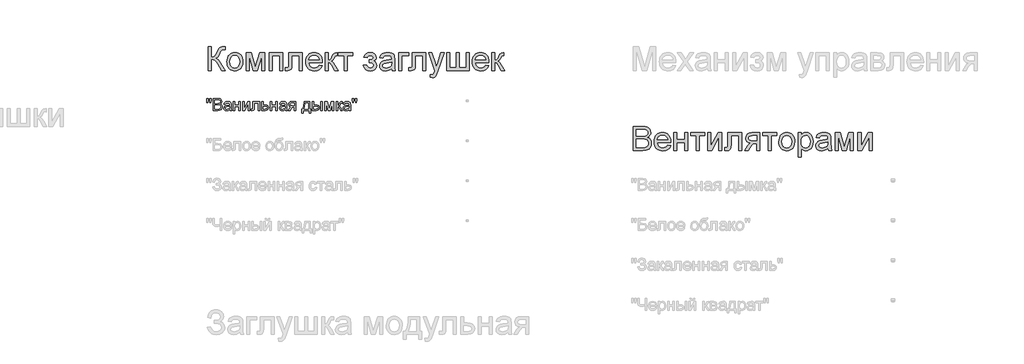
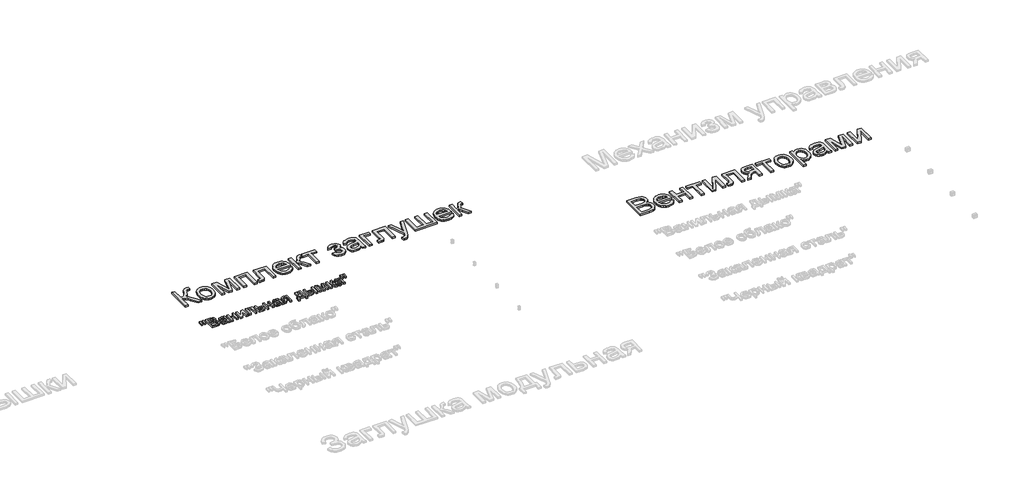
# One storey, part 105 of 168: 3 proxies.
"""IFC4 building model written with IfcOpenShell, lengths in millimetres."""

from ifc_helpers import new_model, si_unit, origin, origin_with_axes, place, context, project, spatial, polyline, outline, extrude, element, save

model = new_model("IFC4")

# Units and contexts
model_context = context("Model", 3, world=origin())
ifc_project = project(units=[si_unit("LENGTHUNIT", "METRE", prefix="MILLI")], contexts=[model_context])

# Site, building, storey
site = spatial("IfcSite", under=ifc_project)
building = spatial("IfcBuilding", under=site)
storey = spatial("IfcBuildingStorey", under=building, Name="Этаж 01", Elevation=0.0)

# Proxies
placement = place(None, origin())
element("IfcBuildingElementProxy", 1, Name="300 мм Arial 2", ObjectType="300 мм Arial 2", at=placement, inside=storey, context=model_context, shape_type="SweptSolid", body=[
    extrude(outline(polyline([(49099.0945017, -30665.4933673), (49136.765618, -30665.4933673), (49136.765618, -30797.3422744), (49162.2690373, -30794.8498738), (49178.8881064, -30787.3726723), (49192.3249963, -30769.7787159), (49208.2818778, -30736.9360507), (49229.0672106, -30694.8135623), (49239.0919949, -30683.4000234), (49252.6116582, -30673.9546532), (49268.6605103, -30667.6086888), (49286.2728608, -30665.4933673), (49310.9945309, -30665.9348257), (49310.9945309, -30703.605942), (49302.6803978, -30703.3852128), (49294.3662647, -30703.1644836), (49277.1125991, -30705.4269579), (49264.9357051, -30712.2143807), (49254.4510682, -30726.469808), (49242.5684798, -30750.989143), (49227.9911557, -30781.5233486), (49215.8970351, -30798.2251911), (49189.8877781, -30813.8233877), (49204.4788977, -30820.0313964), (49218.9688498, -30830.8563241), (49247.6452513, -30866.3569367), (49310.9945309, -30966.8622977), (49267.2901499, -30966.8622977), (49213.7265314, -30881.9551332), (49193.0423662, -30854.7226686), (49176.0186268, -30837.6253528), (49158.6086114, -30828.6030469), (49136.765618, -30825.5956116), (49136.765618, -30966.8622977), (49099.0945017, -30966.8622977), (49099.0945017, -30665.4933673)])), origin_with_axes(), (0.0, 0.0, 1.0), 20.0),
    extrude(outline(polyline([(49329.830089, -30856.2033936), (49331.8672356, -30827.5407876), (49337.9786752, -30802.8421102), (49348.164408, -30782.1073612), (49362.4244338, -30765.3365408), (49376.7810287, -30754.6173791), (49392.6275456, -30746.9608351), (49409.9639846, -30742.3669087), (49428.7903457, -30740.8355999), (49449.5733792, -30742.7003018), (49468.3652514, -30748.2944073), (49485.1659622, -30757.6179167), (49499.9755118, -30770.6708297), (49512.0627346, -30787.0116881), (49520.6964652, -30806.1990334), (49525.8767035, -30828.2328656), (49527.6034496, -30853.1131848), (49524.5500291, -30891.1705772), (49515.3897674, -30920.1412843), (49500.389379, -30941.837125), (49479.8155785, -30958.069918), (49455.3790169, -30968.19587), (49428.7903457, -30971.5711873), (49407.7038096, -30969.7133832), (49388.7371935, -30964.139971), (49371.8904974, -30954.8509506), (49357.1637213, -30941.8463221), (49345.2052572, -30925.3468146), (49336.6634971, -30905.5731573), (49331.538441, -30882.5253503), (49329.830089, -30856.2033936)]), holes=[polyline([(49367.5012053, -30856.1298172), (49371.860607, -30890.2232811), (49384.9388119, -30914.5126898), (49404.6204987, -30929.0532257), (49428.7903457, -30933.900071), (49452.8498282, -30929.0256345), (49472.4947268, -30914.4023252), (49485.5729317, -30889.7910197), (49489.9323333, -30854.9525948), (49485.5453405, -30821.8524123), (49472.3843622, -30797.8940973), (49452.7118725, -30783.3535615), (49428.7903457, -30778.5067162), (49404.6204987, -30783.3351674), (49384.9388119, -30797.820521), (49371.860607, -30822.0547474), (49367.5012053, -30856.1298172)])]), origin_with_axes(), (0.0, 0.0, 1.0), 20.0),
    extrude(outline(polyline([(49569.9834555, -30745.5444894), (49634.804263, -30745.5444894), (49684.762638, -30922.7164583), (49738.6205621, -30745.5444894), (49800.7190429, -30745.5444894), (49800.7190429, -30966.8622977), (49763.0479266, -30966.8622977), (49763.0479266, -30788.6602593), (49708.8956969, -30966.8622977), (49659.4523567, -30966.8622977), (49607.6545718, -30780.125397), (49607.6545718, -30966.8622977), (49569.9834555, -30966.8622977), (49569.9834555, -30745.5444894)])), origin_with_axes(), (0.0, 0.0, 1.0), 20.0),
    extrude(outline(polyline([(49857.2257173, -30745.5444894), (50026.7457407, -30745.5444894), (50026.7457407, -30966.8622977), (49989.0746244, -30966.8622977), (49989.0746244, -30783.2156057), (49894.8968336, -30783.2156057), (49894.8968336, -30966.8622977), (49857.2257173, -30966.8622977), (49857.2257173, -30745.5444894)])), origin_with_axes(), (0.0, 0.0, 1.0), 20.0),
    extrude(outline(polyline([(50102.0879733, -30745.5444894), (50271.6079967, -30745.5444894), (50271.6079967, -30966.6415685), (50233.9368804, -30966.6415685), (50233.9368804, -30783.2156057), (50139.7590896, -30783.2156057), (50139.7590896, -30888.7977384), (50137.2207038, -30937.5053145), (50132.4658291, -30948.5325773), (50123.2779762, -30958.069918), (50109.3352486, -30964.6642028), (50090.3157495, -30966.8622977), (50059.7079675, -30964.9493114), (50059.7079675, -30929.1911814), (50076.5569628, -30929.1911814), (50093.5898992, -30926.8735249), (50100.3957161, -30919.515885), (50102.0879733, -30886.6640228), (50102.0879733, -30745.5444894)])), origin_with_axes(), (0.0, 0.0, 1.0), 20.0),
    extrude(outline(polyline([(50483.0665675, -30900.9378442), (50520.0019198, -30905.6467337), (50506.6937887, -30933.4770067), (50485.4578005, -30954.2807335), (50456.7722019, -30967.2485738), (50421.1152395, -30971.5711873), (50397.7409373, -30969.7064854), (50376.9142178, -30964.1123798), (50358.6350812, -30954.7888705), (50342.9035274, -30941.7359575), (50330.2529852, -30925.3169242), (50321.2168837, -30905.8950541), (50315.7952228, -30883.4703472), (50313.9880025, -30858.0428036), (50315.8136169, -30831.7530365), (50321.2904601, -30808.5810693), (50330.4185321, -30788.526902), (50343.1978329, -30771.5905347), (50358.888, -30758.1352507), (50376.7486709, -30748.5243336), (50396.7798455, -30742.7577833), (50418.981524, -30740.8355999), (50440.4681317, -30742.7531848), (50459.8991989, -30748.5059395), (50477.2747254, -30758.093864), (50492.5947112, -30771.5169583), (50505.1003998, -30788.4165374), (50514.0330345, -30808.4339165), (50519.3926153, -30831.5690955), (50521.1791422, -30857.8220744), (50520.958413, -30867.9756174), (50351.6591188, -30867.9756174), (50358.1798272, -30896.1737724), (50373.3273684, -30916.9039228), (50395.1887559, -30929.6510339), (50421.8510035, -30933.900071), (50441.9005723, -30931.9319023), (50458.7863558, -30926.0273963), (50472.5083543, -30915.8186709), (50483.0665675, -30900.9378442)]), holes=[polyline([(50351.6591188, -30830.3045011), (50483.5080259, -30830.3045011), (50478.4128603, -30810.4020852), (50468.4248641, -30796.165052), (50446.462309, -30782.9213001), (50418.8343712, -30778.5067162), (50393.4413164, -30782.0291863), (50372.4444516, -30792.5965966), (50357.8487334, -30809.068513), (50351.6591188, -30830.3045011)])]), origin_with_axes(), (0.0, 0.0, 1.0), 20.0),
    extrude(outline(polyline([(50558.8502585, -30745.5444894), (50596.5213748, -30745.5444894), (50596.5213748, -30839.7222802), (50611.8436599, -30838.030023), (50621.7580797, -30832.9532515), (50630.5320653, -30819.7094997), (50642.4330478, -30793.5163016), (50659.613137, -30759.4872171), (50674.7698752, -30748.413969), (50702.3242366, -30745.5444894), (50709.5347237, -30745.5444894), (50709.5347237, -30783.4363349), (50699.3811807, -30783.2156057), (50680.9870809, -30787.1887313), (50668.0376347, -30811.9839778), (50652.8441083, -30838.8025752), (50631.5437408, -30851.9359624), (50643.4815115, -30857.2380617), (50655.3089177, -30866.5960599), (50678.6326361, -30897.4797534), (50718.9525028, -30966.8622977), (50676.1310386, -30966.8622977), (50636.6205123, -30898.9512814), (50616.7548846, -30870.2196976), (50607.4658642, -30865.0049703), (50596.5213748, -30863.2667279), (50596.5213748, -30966.8622977), (50558.8502585, -30966.8622977), (50558.8502585, -30745.5444894)])), origin_with_axes(), (0.0, 0.0, 1.0), 20.0),
    extrude(outline(polyline([(50723.6613924, -30745.5444894), (50902.5991948, -30745.5444894), (50902.5991948, -30783.2156057), (50831.9658517, -30783.2156057), (50831.9658517, -30966.8622977), (50794.2947354, -30966.8622977), (50794.2947354, -30783.2156057), (50723.6613924, -30783.2156057), (50723.6613924, -30745.5444894)])), origin_with_axes(), (0.0, 0.0, 1.0), 20.0),
    extrude(outline(polyline([(51105.081445, -30867.9756174), (51105.081445, -30830.3045011), (51134.8063102, -30828.8329731), (51149.8158956, -30820.9970866), (51155.1133963, -30813.6486438), (51156.8792299, -30804.6263379), (51154.5155881, -30793.9117748), (51147.4246626, -30785.6068387), (51136.5997349, -30780.2817468), (51123.0340863, -30778.5067162), (51109.321285, -30780.2725498), (51097.8341697, -30785.5700505), (51088.5727404, -30794.3992184), (51081.5369973, -30806.7600534), (51039.1569914, -30802.0511639), (51050.3957864, -30775.2693546), (51067.4839051, -30756.1394909), (51090.4213474, -30744.6615726), (51119.2081136, -30740.8355999), (51150.6988124, -30745.4985042), (51174.5375656, -30759.4872171), (51189.5471511, -30779.950653), (51194.5503462, -30804.0377267), (51192.770717, -30816.3985617), (51187.4318296, -30827.4350216), (51178.5336838, -30837.1471062), (51166.0762798, -30845.5348157), (51180.6168156, -30856.0010585), (51190.9818908, -30869.005687), (51197.1898995, -30884.5854895), (51199.2592357, -30902.7772542), (51194.0077202, -30930.5063596), (51178.2531738, -30952.4781117), (51153.0624542, -30966.7979184), (51119.5024192, -30971.5711873), (51086.6781481, -30967.1566033), (51061.5610049, -30953.9128515), (51044.1509895, -30931.8399318), (51034.4481019, -30900.9378442), (51076.8281077, -30896.2289547), (51083.1740721, -30912.1582451), (51093.8242559, -30924.0408335), (51107.5462543, -30931.4352616), (51123.1076627, -30933.900071), (51138.2644009, -30931.5364291), (51150.625236, -30924.4455037), (51158.8473986, -30913.6757583), (51161.5881194, -30900.2756566), (51159.8866652, -30889.662261), (51154.7823025, -30880.4836053), (51140.2877519, -30869.8886038), (51112.4390849, -30867.7548882), (51105.081445, -30867.9756174)])), origin_with_axes(), (0.0, 0.0, 1.0), 20.0),
    extrude(outline(polyline([(51387.6148173, -30938.6089605), (51369.6161906, -30954.0416102), (51351.0841351, -30964.139971), (51331.5955864, -30969.7133832), (51310.7274803, -30971.5711873), (51279.2459785, -30967.101421), (51256.0234276, -30953.6921223), (51241.7036209, -30933.3298539), (51236.930352, -30908.0011785), (51238.7329738, -30892.3845878), (51244.1408391, -30878.2027369), (51252.4825634, -30866.0626311), (51263.0867619, -30856.5712756), (51289.4639009, -30844.2104405), (51322.0582457, -30838.5450578), (51360.5754906, -30832.5853695), (51387.3940881, -30825.5956116), (51387.6148173, -30817.2079021), (51385.0212492, -30800.3956949), (51377.240545, -30789.3960233), (51359.8397266, -30781.229043), (51335.5963031, -30778.5067162), (51313.1555014, -30780.318535), (51297.4837284, -30785.7539915), (51286.7967565, -30795.806367), (51279.3103579, -30811.468943), (51241.6392416, -30806.7600534), (51248.178344, -30786.1586617), (51257.936414, -30769.9718539), (51271.8239593, -30757.5926248), (51290.7514879, -30748.413969), (51313.9004625, -30742.7301922), (51340.4523455, -30740.8355999), (51365.9189766, -30742.509463), (51386.1065011, -30747.5310522), (51401.3276186, -30755.0818302), (51411.8950289, -30764.3432594), (51418.9031809, -30775.7935865), (51423.4465236, -30789.9110581), (51425.2859336, -30822.8732848), (51425.2859336, -30869.741451), (51427.1989199, -30935.1876579), (51434.7037126, -30966.8622977), (51397.0325963, -30966.8622977), (51387.6148173, -30938.6089605)]), holes=[polyline([(51387.6148173, -30863.2667279), (51326.8407117, -30874.8182225), (51294.4303079, -30880.9250637), (51279.7518163, -30890.8578775), (51274.6014683, -30905.3524281), (51277.4065685, -30916.5544349), (51285.8218692, -30925.7330907), (51299.6634293, -30931.8583259), (51318.7473078, -30933.900071), (51338.9808175, -30931.6467937), (51356.8598825, -30924.8869621), (51371.3544331, -30914.9265571), (51381.4343997, -30903.0715598), (51385.904166, -30890.8578775), (51387.3940881, -30873.9353058), (51387.6148173, -30863.2667279)])]), origin_with_axes(), (0.0, 0.0, 1.0), 20.0),
    extrude(outline(polyline([(51477.0837185, -30745.5444894), (51599.5148465, -30745.5444894), (51599.5148465, -30783.2156057), (51514.7548348, -30783.2156057), (51514.7548348, -30966.8622977), (51477.0837185, -30966.8622977), (51477.0837185, -30745.5444894)])), origin_with_axes(), (0.0, 0.0, 1.0), 20.0),
    extrude(outline(polyline([(51646.6037419, -30745.5444894), (51816.1237652, -30745.5444894), (51816.1237652, -30966.6415685), (51778.4526489, -30966.6415685), (51778.4526489, -30783.2156057), (51684.2748582, -30783.2156057), (51684.2748582, -30888.7977384), (51681.7364724, -30937.5053145), (51676.9815976, -30948.5325773), (51667.7937448, -30958.069918), (51653.8510172, -30964.6642028), (51634.831518, -30966.8622977), (51604.223736, -30964.9493114), (51604.223736, -30929.1911814), (51621.0727314, -30929.1911814), (51638.1056678, -30926.8735249), (51644.9114847, -30919.515885), (51646.6037419, -30886.6640228), (51646.6037419, -30745.5444894)])), origin_with_axes(), (0.0, 0.0, 1.0), 20.0),
    extrude(outline(polyline([(51872.6304397, -31051.6223094), (51867.9215502, -31015.3491447), (51887.0514139, -31018.6600827), (51904.9304789, -31014.5030161), (51915.8933623, -31002.9147333), (51926.1940582, -30975.1764308), (51929.1371142, -30966.0529573), (51849.085992, -30745.5444894), (51888.8172475, -30745.5444894), (51931.2708297, -30868.4170758), (51946.0596859, -30917.5661104), (51960.8485421, -30874.1560349), (52004.4793468, -30745.5444894), (52043.9162966, -30745.5444894), (51966.8818069, -30972.1597985), (51946.8690263, -31021.308833), (51936.6235128, -31036.9990001), (51925.0168358, -31047.8699131), (51911.5339607, -31054.2158775), (51895.6598526, -31056.331199), (51872.6304397, -31051.6223094)])), origin_with_axes(), (0.0, 0.0, 1.0), 20.0),
    extrude(outline(polyline([(52075.1126898, -30745.5444894), (52112.7838061, -30745.5444894), (52112.7838061, -30929.1911814), (52197.5438178, -30929.1911814), (52197.5438178, -30745.5444894), (52235.2149341, -30745.5444894), (52235.2149341, -30929.1911814), (52319.9749458, -30929.1911814), (52319.9749458, -30745.5444894), (52357.6460621, -30745.5444894), (52357.6460621, -30966.8622977), (52075.1126898, -30966.8622977), (52075.1126898, -30745.5444894)])), origin_with_axes(), (0.0, 0.0, 1.0), 20.0),
    extrude(outline(polyline([(52564.3957434, -30900.9378442), (52601.3310957, -30905.6467337), (52588.0229646, -30933.4770067), (52566.7869764, -30954.2807335), (52538.1013778, -30967.2485738), (52502.4444154, -30971.5711873), (52479.0701132, -30969.7064854), (52458.2433937, -30964.1123798), (52439.9642571, -30954.7888705), (52424.2327033, -30941.7359575), (52411.5821612, -30925.3169242), (52402.5460596, -30905.8950541), (52397.1243987, -30883.4703472), (52395.3171784, -30858.0428036), (52397.1427928, -30831.7530365), (52402.619636, -30808.5810693), (52411.7477081, -30788.526902), (52424.5270089, -30771.5905347), (52440.217176, -30758.1352507), (52458.0778468, -30748.5243336), (52478.1090215, -30742.7577833), (52500.3106999, -30740.8355999), (52521.7973076, -30742.7531848), (52541.2283748, -30748.5059395), (52558.6039013, -30758.093864), (52573.9238871, -30771.5169583), (52586.4295757, -30788.4165374), (52595.3622104, -30808.4339165), (52600.7217912, -30831.5690955), (52602.5083181, -30857.8220744), (52602.2875889, -30867.9756174), (52432.9882947, -30867.9756174), (52439.5090031, -30896.1737724), (52454.6565443, -30916.9039228), (52476.5179318, -30929.6510339), (52503.1801794, -30933.900071), (52523.2297482, -30931.9319023), (52540.1155317, -30926.0273963), (52553.8375302, -30915.8186709), (52564.3957434, -30900.9378442)]), holes=[polyline([(52432.9882947, -30830.3045011), (52564.8372018, -30830.3045011), (52559.7420362, -30810.4020852), (52549.75404, -30796.165052), (52527.7914849, -30782.9213001), (52500.1635471, -30778.5067162), (52474.7704924, -30782.0291863), (52453.7736275, -30792.5965966), (52439.1779093, -30809.068513), (52432.9882947, -30830.3045011)])]), origin_with_axes(), (0.0, 0.0, 1.0), 20.0),
    extrude(outline(polyline([(52640.1794344, -30745.5444894), (52677.8505507, -30745.5444894), (52677.8505507, -30839.7222802), (52693.1728358, -30838.030023), (52703.0872556, -30832.9532515), (52711.8612412, -30819.7094997), (52723.7622237, -30793.5163016), (52740.9423129, -30759.4872171), (52756.0990511, -30748.413969), (52783.6534126, -30745.5444894), (52790.8638997, -30745.5444894), (52790.8638997, -30783.4363349), (52780.7103566, -30783.2156057), (52762.3162568, -30787.1887313), (52749.3668106, -30811.9839778), (52734.1732842, -30838.8025752), (52712.8729167, -30851.9359624), (52724.8106874, -30857.2380617), (52736.6380936, -30866.5960599), (52759.9618121, -30897.4797534), (52800.2816787, -30966.8622977), (52757.4602145, -30966.8622977), (52717.9496882, -30898.9512814), (52698.0840605, -30870.2196976), (52688.7950401, -30865.0049703), (52677.8505507, -30863.2667279), (52677.8505507, -30966.8622977), (52640.1794344, -30966.8622977), (52640.1794344, -30745.5444894)])), origin_with_axes(), (0.0, 0.0, 1.0), 20.0),
])
element("IfcBuildingElementProxy", 2, Name="300 мм Arial 2", ObjectType="300 мм Arial 2", at=placement, inside=storey, context=model_context, shape_type="SweptSolid", body=[
    extrude(outline(polyline([(54408.7231967, -31966.8622977), (54408.7231967, -31665.4933673), (54523.7231084, -31665.4933673), (54555.3517629, -31667.7098563), (54580.0458418, -31674.3593234), (54598.9733705, -31685.6073154), (54613.3023742, -31701.6193792), (54622.3246801, -31720.4549374), (54625.3321154, -31740.1734123), (54622.8029267, -31758.3191917), (54615.2153606, -31775.3797192), (54602.5142347, -31790.3065312), (54584.6443668, -31802.0511639), (54605.9907195, -31813.1979883), (54621.7636601, -31830.1573483), (54631.5033359, -31851.8072037), (54634.7498945, -31877.0255145), (54632.5334055, -31898.0407735), (54625.8839384, -31917.5293222), (54615.9603216, -31934.1024061), (54603.9213833, -31946.3712706), (54589.1785124, -31955.2556208), (54571.1430976, -31961.6751616), (54522.8401916, -31966.8622977), (54408.7231967, -31966.8622977)]), holes=[polyline([(54446.394313, -31787.9244953), (54515.1882461, -31787.9244953), (54555.36096, -31784.6871337), (54569.4232492, -31779.1045244), (54579.530807, -31770.7444061), (54585.6284511, -31759.7355374), (54587.6609991, -31746.206677), (54585.7664069, -31733.0732898), (54580.08263, -31721.6321597), (54570.8671861, -31712.7018243), (54558.3775923, -31707.1008209), (54509.9643218, -31703.1644836), (54446.394313, -31703.1644836), (54446.394313, -31787.9244953)]), polyline([(54446.394313, -31929.1911814), (54523.649532, -31929.1911814), (54551.6085636, -31927.7196534), (54575.2633759, -31919.515885), (54590.9351489, -31902.7772542), (54595.5428709, -31890.949848), (54597.0787782, -31877.3933965), (54595.2761564, -31861.6480471), (54589.8682911, -31848.1099897), (54580.4229209, -31837.5241853), (54566.5077844, -31830.6355949), (54546.7985065, -31826.8556074), (54519.970712, -31825.5956116), (54446.394313, -31825.5956116), (54446.394313, -31929.1911814)])]), origin_with_axes(), (0.0, 0.0, 1.0), 20.0),
    extrude(outline(polyline([(54836.7906863, -31900.9378442), (54873.7260386, -31905.6467337), (54860.4179074, -31933.4770067), (54839.1819192, -31954.2807335), (54810.4963207, -31967.2485738), (54774.8393583, -31971.5711873), (54751.465056, -31969.7064854), (54730.6383366, -31964.1123798), (54712.3591999, -31954.7888705), (54696.6276461, -31941.7359575), (54683.977104, -31925.3169242), (54674.9410025, -31905.8950541), (54669.5193416, -31883.4703472), (54667.7121213, -31858.0428036), (54669.5377357, -31831.7530365), (54675.0145789, -31808.5810693), (54684.1426509, -31788.526902), (54696.9219517, -31771.5905347), (54712.6121188, -31758.1352507), (54730.4727897, -31748.5243336), (54750.5039643, -31742.7577833), (54772.7056427, -31740.8355999), (54794.1922505, -31742.7531848), (54813.6233176, -31748.5059395), (54830.9988441, -31758.093864), (54846.3188299, -31771.5169583), (54858.8245185, -31788.4165374), (54867.7571532, -31808.4339165), (54873.116734, -31831.5690955), (54874.903261, -31857.8220744), (54874.6825318, -31867.9756174), (54705.3832376, -31867.9756174), (54711.903946, -31896.1737724), (54727.0514871, -31916.9039228), (54748.9128747, -31929.6510339), (54775.5751223, -31933.900071), (54795.624691, -31931.9319023), (54812.5104746, -31926.0273963), (54826.232473, -31915.8186709), (54836.7906863, -31900.9378442)]), holes=[polyline([(54705.3832376, -31830.3045011), (54837.2321447, -31830.3045011), (54832.136979, -31810.4020852), (54822.1489829, -31796.165052), (54800.1864277, -31782.9213001), (54772.5584899, -31778.5067162), (54747.1654352, -31782.0291863), (54726.1685703, -31792.5965966), (54711.5728522, -31809.068513), (54705.3832376, -31830.3045011)])]), origin_with_axes(), (0.0, 0.0, 1.0), 20.0),
    extrude(outline(polyline([(54912.5743773, -31745.5444894), (54950.2454936, -31745.5444894), (54950.2454936, -31830.3045011), (55049.1321739, -31830.3045011), (55049.1321739, -31745.5444894), (55086.8032902, -31745.5444894), (55086.8032902, -31966.8622977), (55049.1321739, -31966.8622977), (55049.1321739, -31867.9756174), (54950.2454936, -31867.9756174), (54950.2454936, -31966.8622977), (54912.5743773, -31966.8622977), (54912.5743773, -31745.5444894)])), origin_with_axes(), (0.0, 0.0, 1.0), 20.0),
    extrude(outline(polyline([(55124.4744065, -31745.5444894), (55303.412209, -31745.5444894), (55303.412209, -31783.2156057), (55232.7788659, -31783.2156057), (55232.7788659, -31966.8622977), (55195.1077496, -31966.8622977), (55195.1077496, -31783.2156057), (55124.4744065, -31783.2156057), (55124.4744065, -31745.5444894)])), origin_with_axes(), (0.0, 0.0, 1.0), 20.0),
    extrude(outline(polyline([(55336.3744357, -31745.5444894), (55374.045552, -31745.5444894), (55374.045552, -31914.3287488), (55466.604662, -31745.5444894), (55515.3122382, -31745.5444894), (55515.3122382, -31966.8622977), (55477.6411219, -31966.8622977), (55477.6411219, -31799.1081079), (55385.6706231, -31966.8622977), (55336.3744357, -31966.8622977), (55336.3744357, -31745.5444894)])), origin_with_axes(), (0.0, 0.0, 1.0), 20.0),
    extrude(outline(polyline([(55590.6544708, -31745.5444894), (55760.1744942, -31745.5444894), (55760.1744942, -31966.6415685), (55722.5033779, -31966.6415685), (55722.5033779, -31783.2156057), (55628.3255871, -31783.2156057), (55628.3255871, -31888.7977384), (55625.7872013, -31937.5053145), (55621.0323265, -31948.5325773), (55611.8444737, -31958.069918), (55597.9017461, -31964.6642028), (55578.8822469, -31966.8622977), (55548.2744649, -31964.9493114), (55548.2744649, -31929.1911814), (55565.1234603, -31929.1911814), (55582.1563967, -31926.8735249), (55588.9622136, -31919.515885), (55590.6544708, -31886.6640228), (55590.6544708, -31745.5444894)])), origin_with_axes(), (0.0, 0.0, 1.0), 20.0),
    extrude(outline(polyline([(55986.201192, -31745.5444894), (55986.201192, -31966.8622977), (55948.5300757, -31966.8622977), (55948.5300757, -31882.102286), (55928.0022604, -31882.102286), (55900.0432287, -31886.884752), (55888.8780102, -31897.3142065), (55873.7764543, -31919.0376384), (55843.7572835, -31966.8622977), (55800.2000552, -31966.8622977), (55838.0183243, -31906.3824977), (55854.7201669, -31884.67746), (55870.0976343, -31875.0389517), (55844.3458947, -31867.1478829), (55826.2461005, -31852.1566916), (55815.5407344, -31832.2174875), (55811.9722791, -31809.4823802), (55816.8467155, -31783.6938523), (55831.4700248, -31763.2764016), (55855.3271722, -31749.9774675), (55887.9031229, -31745.5444894), (55986.201192, -31745.5444894)]), holes=[polyline([(55948.5300757, -31783.2156057), (55898.8660063, -31783.2156057), (55873.2154342, -31785.3953066), (55858.6565043, -31791.934409), (55851.8966726, -31801.3981734), (55849.6433954, -31812.3518598), (55852.9635304, -31826.7084546), (55862.9239354, -31836.6688596), (55881.3272322, -31842.4905922), (55909.9760426, -31844.4311697), (55948.5300757, -31844.4311697), (55948.5300757, -31783.2156057)])]), origin_with_axes(), (0.0, 0.0, 1.0), 20.0),
    extrude(outline(polyline([(56023.8723083, -31745.5444894), (56202.8101108, -31745.5444894), (56202.8101108, -31783.2156057), (56132.1767677, -31783.2156057), (56132.1767677, -31966.8622977), (56094.5056514, -31966.8622977), (56094.5056514, -31783.2156057), (56023.8723083, -31783.2156057), (56023.8723083, -31745.5444894)])), origin_with_axes(), (0.0, 0.0, 1.0), 20.0),
    extrude(outline(polyline([(56226.3545584, -31856.2033936), (56228.391705, -31827.5407876), (56234.5031446, -31802.8421102), (56244.6888774, -31782.1073612), (56258.9489032, -31765.3365408), (56273.3054981, -31754.6173791), (56289.152015, -31746.9608351), (56306.488454, -31742.3669087), (56325.3148152, -31740.8355999), (56346.0978486, -31742.7003018), (56364.8897208, -31748.2944073), (56381.6904317, -31757.6179167), (56396.4999812, -31770.6708297), (56408.587204, -31787.0116881), (56417.2209346, -31806.1990334), (56422.4011729, -31828.2328656), (56424.1279191, -31853.1131848), (56421.0744985, -31891.1705772), (56411.9142368, -31920.1412843), (56396.9138485, -31941.837125), (56376.3400479, -31958.069918), (56351.9034864, -31968.19587), (56325.3148152, -31971.5711873), (56304.228279, -31969.7133832), (56285.2616629, -31964.139971), (56268.4149668, -31954.8509506), (56253.6881907, -31941.8463221), (56241.7297266, -31925.3468146), (56233.1879665, -31905.5731573), (56228.0629105, -31882.5253503), (56226.3545584, -31856.2033936)]), holes=[polyline([(56264.0256748, -31856.1298172), (56268.3850764, -31890.2232811), (56281.4632813, -31914.5126898), (56301.1449681, -31929.0532257), (56325.3148152, -31933.900071), (56349.3742976, -31929.0256345), (56369.0191962, -31914.4023252), (56382.0974011, -31889.7910197), (56386.4568028, -31854.9525948), (56382.06981, -31821.8524123), (56368.9088316, -31797.8940973), (56349.2363419, -31783.3535615), (56325.3148152, -31778.5067162), (56301.1449681, -31783.3351674), (56281.4632813, -31797.820521), (56268.3850764, -31822.0547474), (56264.0256748, -31856.1298172)])]), origin_with_axes(), (0.0, 0.0, 1.0), 20.0),
    extrude(outline(polyline([(56466.5079249, -32051.6223094), (56466.5079249, -31745.5444894), (56504.1790412, -31745.5444894), (56504.1790412, -31782.4798418), (56516.4662998, -31764.2604859), (56530.2250865, -31751.2466604), (56546.2647415, -31743.438365), (56565.3946052, -31740.8355999), (56590.8704334, -31744.4776316), (56613.1456882, -31755.4037269), (56631.2822705, -31772.9516981), (56644.3420814, -31796.4593576), (56652.2331502, -31824.2160541), (56654.8635064, -31854.5111364), (56651.8928593, -31886.7284021), (56642.980918, -31915.5427594), (56628.412791, -31939.4918773), (56608.4735868, -31957.1134249), (56585.2510359, -31967.9567467), (56560.8328685, -31971.5711873), (56543.5148235, -31969.1523632), (56528.0545827, -31961.8958908), (56514.8200279, -31950.9422044), (56504.1790412, -31937.4317381), (56504.1790412, -32051.6223094), (56466.5079249, -32051.6223094)]), holes=[polyline([(56504.1790412, -31857.9692272), (56508.2533343, -31891.7407943), (56520.4762136, -31915.3588184), (56538.5116284, -31929.2647578), (56560.0235281, -31933.900071), (56581.8849156, -31929.0992109), (56600.3801829, -31914.6966308), (56612.9893383, -31890.214084), (56617.1923901, -31855.173324), (56613.0905059, -31821.5856978), (56600.7848531, -31797.63658), (56582.7770295, -31783.2891821), (56561.5686325, -31778.5067162), (56540.277462, -31783.5926848), (56521.5798596, -31798.8505905), (56508.5292458, -31823.8021869), (56504.1790412, -31857.9692272)])]), origin_with_axes(), (0.0, 0.0, 1.0), 20.0),
    extrude(outline(polyline([(56838.5101984, -31938.6089605), (56820.5115718, -31954.0416102), (56801.9795163, -31964.139971), (56782.4909676, -31969.7133832), (56761.6228614, -31971.5711873), (56730.1413597, -31967.101421), (56706.9188087, -31953.6921223), (56692.5990021, -31933.3298539), (56687.8257332, -31908.0011785), (56689.628355, -31892.3845878), (56695.0362203, -31878.2027369), (56703.3779445, -31866.0626311), (56713.9821431, -31856.5712756), (56740.3592821, -31844.2104405), (56772.9536269, -31838.5450578), (56811.4708718, -31832.5853695), (56838.2894692, -31825.5956116), (56838.5101984, -31817.2079021), (56835.9166304, -31800.3956949), (56828.1359262, -31789.3960233), (56810.7351078, -31781.229043), (56786.4916843, -31778.5067162), (56764.0508826, -31780.318535), (56748.3791096, -31785.7539915), (56737.6921376, -31795.806367), (56730.205739, -31811.468943), (56692.5346227, -31806.7600534), (56699.0737252, -31786.1586617), (56708.8317951, -31769.9718539), (56722.7193404, -31757.5926248), (56741.6468691, -31748.413969), (56764.7958436, -31742.7301922), (56791.3477266, -31740.8355999), (56816.8143578, -31742.509463), (56837.0018822, -31747.5310522), (56852.2229998, -31755.0818302), (56862.7904101, -31764.3432594), (56869.7985621, -31775.7935865), (56874.3419048, -31789.9110581), (56876.1813147, -31822.8732848), (56876.1813147, -31869.741451), (56878.0943011, -31935.1876579), (56885.5990938, -31966.8622977), (56847.9279775, -31966.8622977), (56838.5101984, -31938.6089605)]), holes=[polyline([(56838.5101984, -31863.2667279), (56777.7360928, -31874.8182225), (56745.325689, -31880.9250637), (56730.6471974, -31890.8578775), (56725.4968495, -31905.3524281), (56728.3019497, -31916.5544349), (56736.7172504, -31925.7330907), (56750.5588104, -31931.8583259), (56769.6426889, -31933.900071), (56789.8761987, -31931.6467937), (56807.7552636, -31924.8869621), (56822.2498142, -31914.9265571), (56832.3297809, -31903.0715598), (56836.7995471, -31890.8578775), (56838.2894692, -31873.9353058), (56838.5101984, -31863.2667279)])]), origin_with_axes(), (0.0, 0.0, 1.0), 20.0),
    extrude(outline(polyline([(56927.9790997, -31745.5444894), (56992.7999072, -31745.5444894), (57042.7582821, -31922.7164583), (57096.6162062, -31745.5444894), (57158.714687, -31745.5444894), (57158.714687, -31966.8622977), (57121.0435707, -31966.8622977), (57121.0435707, -31788.6602593), (57066.891341, -31966.8622977), (57017.4480009, -31966.8622977), (56965.650216, -31780.125397), (56965.650216, -31966.8622977), (56927.9790997, -31966.8622977), (56927.9790997, -31745.5444894)])), origin_with_axes(), (0.0, 0.0, 1.0), 20.0),
    extrude(outline(polyline([(57215.2213615, -31745.5444894), (57252.8924778, -31745.5444894), (57252.8924778, -31914.3287488), (57345.4515878, -31745.5444894), (57394.1591639, -31745.5444894), (57394.1591639, -31966.8622977), (57356.4880476, -31966.8622977), (57356.4880476, -31799.1081079), (57264.5175488, -31966.8622977), (57215.2213615, -31966.8622977), (57215.2213615, -31745.5444894)])), origin_with_axes(), (0.0, 0.0, 1.0), 20.0),
])
element("IfcBuildingElementProxy", 3, Name="150", ObjectType="150", at=placement, inside=storey, context=model_context, shape_type="SweptSolid", body=[
    extrude(outline(polyline([(49080.1485789, -31370.3300622), (49075.550054, -31341.2305964), (49075.550054, -31316.1778325), (49094.3856121, -31316.1778325), (49094.3856121, -31341.2305964), (49090.2653338, -31370.3300622), (49080.1485789, -31370.3300622)])), origin_with_axes(), (0.0, 0.0, 1.0), 20.0),
    extrude(outline(polyline([(49117.7093306, -31370.3300622), (49113.2211703, -31341.2305964), (49113.2211703, -31316.1778325), (49132.0567284, -31316.1778325), (49132.0567284, -31341.2305964), (49127.6421445, -31370.3300622), (49117.7093306, -31370.3300622)])), origin_with_axes(), (0.0, 0.0, 1.0), 20.0),
    extrude(outline(polyline([(49157.9556209, -31466.8622977), (49157.9556209, -31316.1778325), (49215.4555767, -31316.1778325), (49243.6169435, -31320.6108106), (49253.0807078, -31326.2348066), (49260.2452096, -31334.2408385), (49266.2600803, -31353.517855), (49261.2017028, -31371.1210085), (49245.9162059, -31384.4567308), (49256.5893823, -31390.030143), (49264.4758526, -31398.509823), (49269.3456905, -31409.3347507), (49270.9689698, -31421.9439061), (49266.5359918, -31442.19581), (49255.5547142, -31456.6167842), (49239.1655713, -31464.2687297), (49215.0141183, -31466.8622977), (49157.9556209, -31466.8622977)]), holes=[polyline([(49176.791179, -31377.3933965), (49211.1881456, -31377.3933965), (49231.2745025, -31375.7747157), (49243.3594261, -31368.8033519), (49247.4245221, -31356.5344874), (49243.6353376, -31344.2472287), (49232.7828187, -31336.9815593), (49208.5761834, -31335.0133907), (49176.791179, -31335.0133907), (49176.791179, -31377.3933965)]), polyline([(49176.791179, -31448.0267396), (49215.4187885, -31448.0267396), (49229.3983043, -31447.2909756), (49241.2257105, -31443.1890913), (49249.061597, -31434.819776), (49252.1334117, -31422.1278471), (49248.5281681, -31407.4861437), (49236.8479148, -31398.7489463), (49213.5793786, -31396.2289547), (49176.791179, -31396.2289547), (49176.791179, -31448.0267396)])]), origin_with_axes(), (0.0, 0.0, 1.0), 20.0),
    extrude(outline(polyline([(49365.1467606, -31452.7356291), (49346.8814195, -31465.5011344), (49326.7030921, -31469.2167425), (49310.9623412, -31466.9818594), (49299.3510657, -31460.27721), (49292.1911624, -31450.0960758), (49289.804528, -31437.4317381), (49293.4097715, -31422.5325173), (49302.8827329, -31411.7167867), (49316.0713024, -31405.5363691), (49332.3684748, -31402.7036778), (49365.036396, -31396.2289547), (49365.1467606, -31392.0350999), (49363.8499765, -31383.6289963), (49359.9596244, -31378.1291605), (49351.2592153, -31374.0456704), (49339.1375035, -31372.684507), (49320.0812162, -31376.3081446), (49310.9945309, -31389.1656204), (49292.1589727, -31386.8111756), (49300.3075589, -31368.4170758), (49316.7150959, -31357.6381334), (49341.5655247, -31353.8489488), (49364.3926025, -31357.196675), (49377.2868664, -31365.6027786), (49383.0626137, -31378.3866779), (49383.9823187, -31394.8677913), (49383.9823187, -31418.3018744), (49384.9388119, -31451.0249778), (49388.6912083, -31466.8622977), (49369.8556501, -31466.8622977), (49365.1467606, -31452.7356291)]), holes=[polyline([(49365.1467606, -31415.0645128), (49334.7597078, -31420.8402601), (49318.5545059, -31423.8936807), (49311.2152601, -31428.8600876), (49308.6400861, -31436.1073629), (49314.2502865, -31446.2976942), (49330.7130058, -31450.3811843), (49349.7692932, -31445.8746299), (49362.0565518, -31434.9669288), (49365.036396, -31420.3988017), (49365.1467606, -31415.0645128)])]), origin_with_axes(), (0.0, 0.0, 1.0), 20.0),
    extrude(outline(polyline([(49409.8812112, -31356.2033936), (49428.7167693, -31356.2033936), (49428.7167693, -31398.5833994), (49478.1601095, -31398.5833994), (49478.1601095, -31356.2033936), (49496.9956676, -31356.2033936), (49496.9956676, -31466.8622977), (49478.1601095, -31466.8622977), (49478.1601095, -31417.4189576), (49428.7167693, -31417.4189576), (49428.7167693, -31466.8622977), (49409.8812112, -31466.8622977), (49409.8812112, -31356.2033936)])), origin_with_axes(), (0.0, 0.0, 1.0), 20.0),
    extrude(outline(polyline([(49525.2490049, -31356.2033936), (49544.084563, -31356.2033936), (49544.084563, -31440.5955233), (49590.364118, -31356.2033936), (49614.7179061, -31356.2033936), (49614.7179061, -31466.8622977), (49595.8823479, -31466.8622977), (49595.8823479, -31382.9852028), (49549.8970985, -31466.8622977), (49525.2490049, -31466.8622977), (49525.2490049, -31356.2033936)])), origin_with_axes(), (0.0, 0.0, 1.0), 20.0),
    extrude(outline(polyline([(49652.3890224, -31356.2033936), (49737.1490341, -31356.2033936), (49737.1490341, -31466.7519331), (49718.3134759, -31466.7519331), (49718.3134759, -31375.0389517), (49671.2245806, -31375.0389517), (49671.2245806, -31427.830018), (49669.9553877, -31452.1838061), (49662.9840239, -31462.4661079), (49646.5029105, -31466.8622977), (49631.1990195, -31465.9058045), (49631.1990195, -31448.0267396), (49639.6235172, -31448.0267396), (49648.1399854, -31446.8679113), (49651.5428938, -31443.1890913), (49652.3890224, -31426.7631603), (49652.3890224, -31356.2033936)])), origin_with_axes(), (0.0, 0.0, 1.0), 20.0),
    extrude(outline(polyline([(49765.4023713, -31356.2033936), (49784.2379295, -31356.2033936), (49784.2379295, -31396.2289547), (49805.9429672, -31396.2289547), (49824.7601312, -31398.587998), (49838.6844648, -31405.6651278), (49847.2929034, -31416.8901272), (49850.162383, -31431.692779), (49847.7205663, -31445.1710556), (49840.395116, -31456.5432078), (49827.6985887, -31464.2825252), (49809.1435405, -31466.8622977), (49765.4023713, -31466.8622977), (49765.4023713, -31356.2033936)]), holes=[polyline([(49784.2379295, -31448.0267396), (49801.8226888, -31448.0267396), (49824.539402, -31444.0720081), (49829.6299692, -31439.0090322), (49831.3268249, -31431.7295672), (49826.3052356, -31420.1412843), (49818.2348244, -31416.3337057), (49804.066769, -31415.0645128), (49784.2379295, -31415.0645128), (49784.2379295, -31448.0267396)])]), origin_with_axes(), (0.0, 0.0, 1.0), 20.0),
    extrude(outline(polyline([(49873.7068307, -31356.2033936), (49892.5423889, -31356.2033936), (49892.5423889, -31398.5833994), (49941.985729, -31398.5833994), (49941.985729, -31356.2033936), (49960.8212872, -31356.2033936), (49960.8212872, -31466.8622977), (49941.985729, -31466.8622977), (49941.985729, -31417.4189576), (49892.5423889, -31417.4189576), (49892.5423889, -31466.8622977), (49873.7068307, -31466.8622977), (49873.7068307, -31356.2033936)])), origin_with_axes(), (0.0, 0.0, 1.0), 20.0),
    extrude(outline(polyline([(50059.7079675, -31452.7356291), (50041.4426264, -31465.5011344), (50021.264299, -31469.2167425), (50005.5235481, -31466.9818594), (49993.9122726, -31460.27721), (49986.7523693, -31450.0960758), (49984.3657349, -31437.4317381), (49987.9709784, -31422.5325173), (49997.4439398, -31411.7167867), (50010.6325093, -31405.5363691), (50026.9296817, -31402.7036778), (50059.5976029, -31396.2289547), (50059.7079675, -31392.0350999), (50058.4111834, -31383.6289963), (50054.5208313, -31378.1291605), (50045.8204221, -31374.0456704), (50033.6987104, -31372.684507), (50014.6424231, -31376.3081446), (50005.5557378, -31389.1656204), (49986.7201796, -31386.8111756), (49994.8687658, -31368.4170758), (50011.2763028, -31357.6381334), (50036.1267316, -31353.8489488), (50058.9538094, -31357.196675), (50071.8480733, -31365.6027786), (50077.6238206, -31378.3866779), (50078.5435256, -31394.8677913), (50078.5435256, -31418.3018744), (50079.5000188, -31451.0249778), (50083.2524152, -31466.8622977), (50064.416857, -31466.8622977), (50059.7079675, -31452.7356291)]), holes=[polyline([(50059.7079675, -31415.0645128), (50029.3209147, -31420.8402601), (50013.1157128, -31423.8936807), (50005.776467, -31428.8600876), (50003.201293, -31436.1073629), (50008.8114934, -31446.2976942), (50025.2742127, -31450.3811843), (50044.3305001, -31445.8746299), (50056.6177587, -31434.9669288), (50059.5976029, -31420.3988017), (50059.7079675, -31415.0645128)])]), origin_with_axes(), (0.0, 0.0, 1.0), 20.0),
    extrude(outline(polyline([(50189.2024298, -31356.2033936), (50189.2024298, -31466.8622977), (50170.3668716, -31466.8622977), (50170.3668716, -31424.4822919), (50160.1029639, -31424.4822919), (50146.1234481, -31426.8735249), (50132.9900609, -31442.949968), (50117.9804755, -31466.8622977), (50096.2018614, -31466.8622977), (50115.1109959, -31436.6223977), (50123.4619172, -31425.7698789), (50131.1506509, -31420.9506247), (50118.2747811, -31417.0050903), (50109.224884, -31409.5094947), (50103.872201, -31399.5398926), (50102.0879733, -31388.172339), (50104.5251915, -31375.278075), (50111.8368462, -31365.0693497), (50123.7654199, -31358.4198826), (50140.0533952, -31356.2033936), (50189.2024298, -31356.2033936)]), holes=[polyline([(50170.3668716, -31375.0389517), (50145.5348369, -31375.0389517), (50132.7095509, -31376.1288021), (50125.4300859, -31379.3983534), (50120.9235315, -31389.6070787), (50122.583599, -31396.7853762), (50127.5638015, -31401.7655787), (50151.0898551, -31405.6467337), (50170.3668716, -31405.6467337), (50170.3668716, -31375.0389517)])]), origin_with_axes(), (0.0, 0.0, 1.0), 20.0),
    extrude(outline(polyline([(50292.7979996, -31356.2033936), (50363.4313427, -31356.2033936), (50363.4313427, -31448.0267396), (50377.5580113, -31448.0267396), (50377.5580113, -31497.4700797), (50358.7224531, -31497.4700797), (50358.7224531, -31466.8622977), (50281.0257758, -31466.8622977), (50281.0257758, -31497.4700797), (50262.1902176, -31497.4700797), (50262.1902176, -31448.0267396), (50273.9624415, -31448.0267396), (50282.5202964, -31432.5619002), (50288.5121744, -31412.1030628), (50292.7979996, -31356.2033936)]), holes=[polyline([(50309.279113, -31375.0389517), (50304.864529, -31417.9523865), (50295.1524444, -31448.0267396), (50344.5957845, -31448.0267396), (50344.5957845, -31375.0389517), (50309.279113, -31375.0389517)])]), origin_with_axes(), (0.0, 0.0, 1.0), 20.0),
    extrude(outline(polyline([(50502.3435841, -31356.2033936), (50521.1791422, -31356.2033936), (50521.1791422, -31466.8622977), (50502.3435841, -31466.8622977), (50502.3435841, -31356.2033936)])), origin_with_axes(), (0.0, 0.0, 1.0), 20.0),
    extrude(outline(polyline([(50398.7480142, -31356.2033936), (50417.5835724, -31356.2033936), (50417.5835724, -31396.2289547), (50440.8705027, -31396.2289547), (50460.9982463, -31398.587998), (50475.9112627, -31405.6651278), (50485.1405023, -31416.8901272), (50488.2169154, -31431.692779), (50485.637143, -31445.1710556), (50477.8978255, -31456.5432078), (50464.4931253, -31464.2825252), (50444.9172046, -31466.8622977), (50398.7480142, -31466.8622977), (50398.7480142, -31356.2033936)]), holes=[polyline([(50417.5835724, -31448.0267396), (50436.9341653, -31448.0267396), (50461.9133528, -31444.0720081), (50467.5143562, -31439.0090322), (50469.3813573, -31431.7295672), (50463.8447333, -31420.1412843), (50454.9649816, -31416.3337057), (50439.3989747, -31415.0645128), (50417.5835724, -31415.0645128), (50417.5835724, -31448.0267396)])]), origin_with_axes(), (0.0, 0.0, 1.0), 20.0),
    extrude(outline(polyline([(50549.4324794, -31356.2033936), (50581.8428832, -31356.2033936), (50606.8220707, -31444.789378), (50633.7510327, -31356.2033936), (50664.8002731, -31356.2033936), (50664.8002731, -31466.8622977), (50645.964715, -31466.8622977), (50645.964715, -31377.7612785), (50618.8886001, -31466.8622977), (50594.1669301, -31466.8622977), (50568.2680376, -31373.4938474), (50568.2680376, -31466.8622977), (50549.4324794, -31466.8622977), (50549.4324794, -31356.2033936)])), origin_with_axes(), (0.0, 0.0, 1.0), 20.0),
    extrude(outline(polyline([(50693.0536104, -31356.2033936), (50711.8891685, -31356.2033936), (50711.8891685, -31403.292289), (50724.5075209, -31399.9077746), (50734.845005, -31380.1892997), (50743.4350496, -31363.1747574), (50751.0134187, -31357.6381334), (50764.7905994, -31356.2033936), (50768.395843, -31356.2033936), (50768.395843, -31375.1493163), (50763.3190714, -31375.0389517), (50754.1220216, -31377.0255145), (50747.6472984, -31389.4231377), (50740.0505352, -31402.8324365), (50729.4003515, -31409.3991301), (50741.2829399, -31416.7291788), (50752.9447992, -31432.1710256), (50773.1047325, -31466.8622977), (50751.6940004, -31466.8622977), (50731.9387372, -31432.9067896), (50722.0059234, -31418.5409977), (50711.8891685, -31415.0645128), (50711.8891685, -31466.8622977), (50693.0536104, -31466.8622977), (50693.0536104, -31356.2033936)])), origin_with_axes(), (0.0, 0.0, 1.0), 20.0),
    extrude(outline(polyline([(50855.5102994, -31452.7356291), (50837.2449584, -31465.5011344), (50817.0666309, -31469.2167425), (50801.3258801, -31466.9818594), (50789.7146046, -31460.27721), (50782.5547013, -31450.0960758), (50780.1680668, -31437.4317381), (50783.7733104, -31422.5325173), (50793.2462717, -31411.7167867), (50806.4348413, -31405.5363691), (50822.7320137, -31402.7036778), (50855.3999348, -31396.2289547), (50855.5102994, -31392.0350999), (50854.2135154, -31383.6289963), (50850.3231633, -31378.1291605), (50841.6227541, -31374.0456704), (50829.5010424, -31372.684507), (50810.444755, -31376.3081446), (50801.3580697, -31389.1656204), (50782.5225116, -31386.8111756), (50790.6710978, -31368.4170758), (50807.0786348, -31357.6381334), (50831.9290635, -31353.8489488), (50854.7561413, -31357.196675), (50867.6504053, -31365.6027786), (50873.4261526, -31378.3866779), (50874.3458576, -31394.8677913), (50874.3458576, -31418.3018744), (50875.3023508, -31451.0249778), (50879.0547471, -31466.8622977), (50860.219189, -31466.8622977), (50855.5102994, -31452.7356291)]), holes=[polyline([(50855.5102994, -31415.0645128), (50825.1232466, -31420.8402601), (50808.9180447, -31423.8936807), (50801.5787989, -31428.8600876), (50799.003625, -31436.1073629), (50804.6138254, -31446.2976942), (50821.0765447, -31450.3811843), (50840.132832, -31445.8746299), (50852.4200907, -31434.9669288), (50855.3999348, -31420.3988017), (50855.5102994, -31415.0645128)])]), origin_with_axes(), (0.0, 0.0, 1.0), 20.0),
    extrude(outline(polyline([(50900.1343854, -31370.3300622), (50895.5358605, -31341.2305964), (50895.5358605, -31316.1778325), (50914.3714187, -31316.1778325), (50914.3714187, -31341.2305964), (50910.2511403, -31370.3300622), (50900.1343854, -31370.3300622)])), origin_with_axes(), (0.0, 0.0, 1.0), 20.0),
    extrude(outline(polyline([(50937.6951372, -31370.3300622), (50933.2069768, -31341.2305964), (50933.2069768, -31316.1778325), (50952.042535, -31316.1778325), (50952.042535, -31341.2305964), (50947.627951, -31370.3300622), (50937.6951372, -31370.3300622)])), origin_with_axes(), (0.0, 0.0, 1.0), 20.0),
])

save(model, "model.ifc")
